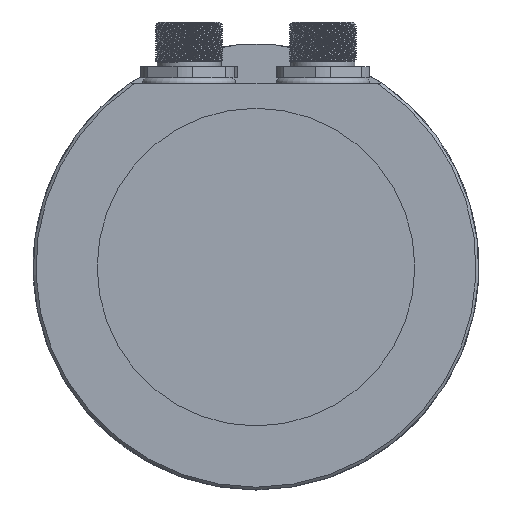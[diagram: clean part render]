
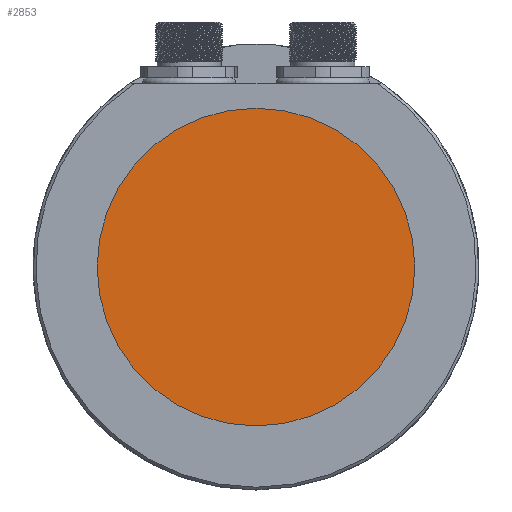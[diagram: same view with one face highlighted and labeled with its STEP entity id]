
A CAD part, left-side view. The second image highlights one B-rep face of the part: STEP entity #2853.
In plain terms, the highlighted planar face has unit normal (-1, 0, 0).
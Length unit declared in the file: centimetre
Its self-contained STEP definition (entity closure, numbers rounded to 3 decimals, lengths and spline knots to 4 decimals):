
#1024=PLANE('',#3036);
#1103=VERTEX_POINT('',#3740);
#1314=CIRCLE('',#3034,2.85);
#1411=EDGE_CURVE('',#1103,#1103,#1314,.T.);
#1768=ORIENTED_EDGE('',*,*,#1411,.T.);
#2435=EDGE_LOOP('',(#1768));
#2647=FACE_BOUND('',#2435,.T.);
#2853=ADVANCED_FACE('',(#2647),#1024,.T.);
#3034=AXIS2_PLACEMENT_3D('',#3739,#3269,#3270);
#3036=AXIS2_PLACEMENT_3D('',#3743,#3273,$);
#3269=DIRECTION('',(-1.,0.,0.));
#3270=DIRECTION('',(0.,0.,2.85));
#3273=DIRECTION('',(-1.,0.,0.));
#3739=CARTESIAN_POINT('',(0.1,0.,0.));
#3740=CARTESIAN_POINT('',(0.1,0.,2.85));
#3743=CARTESIAN_POINT('',(0.1,0.,0.));
